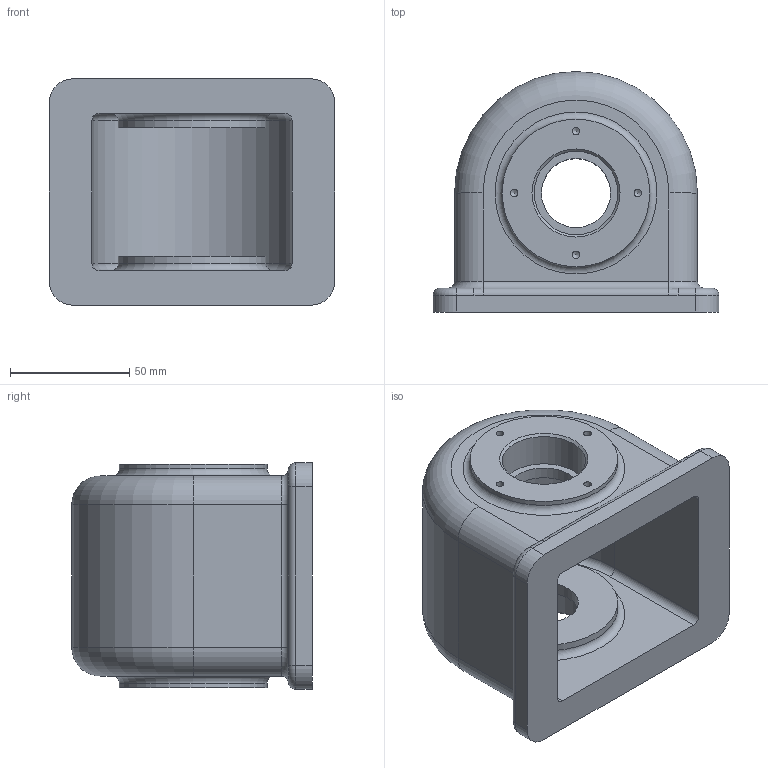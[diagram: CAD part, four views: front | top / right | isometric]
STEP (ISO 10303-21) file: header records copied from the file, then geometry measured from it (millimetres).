
FILE_DESCRIPTION(/* description */ (''),/* implementation_level */ '2;1');
FILE_NAME(/* name */ 'C:\Users\201-14\Desktop\380723E1015\380723E1015.stp',/* time_stamp */ '2018-07-07T16:08:18+09:00',/* author */ ('201-14'),/* organization */ (''),/* preprocessor_version */ 'ST-DEVELOPER v16.1',/* originating_system */ 'Autodesk Inventor 2016',/* authorisation */ '');
FILE_SCHEMA (('AUTOMOTIVE_DESIGN { 1 0 10303 214 3 1 1 }'));
Length unit declared in the file: millimetre
Products named in the file (1): 3d
Bounding box: 120 x 101 x 95 mm (x, y, z)
Volume: 350659.9 mm3; surface area: 80444.3 mm2
Topology: 1 solids, 1 shells, 93 faces, 206 edges, 122 vertices
Faces by surface type: cylinder 42, plane 21, torus 16, cone 10, bspline 4
Full cylindrical faces by diameter (mm): 3.242 x8, 29 x2, 35 x1, 42 x1, 62 x4
Entity records: 2436 total; most frequent: CARTESIAN_POINT 476, DIRECTION 442, ORIENTED_EDGE 336, AXIS2_PLACEMENT_3D 192, EDGE_CURVE 168, EDGE_LOOP 134, VERTEX_POINT 114, CIRCLE 102
